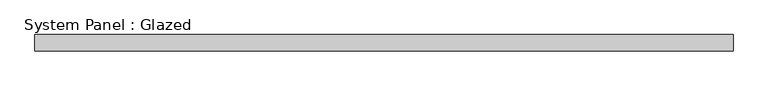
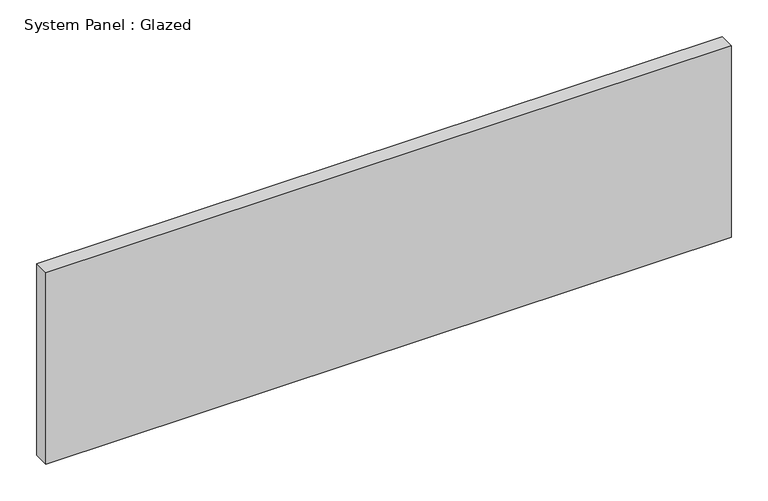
"""IFC4 building model written with IfcOpenShell, lengths in millimetres: plate geometry, System Panel : Glazed."""

import ifcopenshell
import ifcopenshell.guid

model = None  # the IFC model being written
_history = None  # IfcOwnerHistory: only IFC2X3 demands one
_inside = {}  # id of a spatial element -> (the spatial element, [elements in it])
_under = {}  # id of a project, library or spatial element -> (it, [spatial elements below it])
_declared = {}  # id of a project -> (the project, [libraries it declares])
_typed = {}  # id of a type object -> (the type object, [elements of that type])
_made_of = {}  # id of a material, layer set ... -> (it, [elements and type objects made of it])


def new_model(schema):
    """Start an empty IFC model of exactly this schema.

    Asked for "IFC4X3", IfcOpenShell would pick the latest addendum, in which some entities
    have other attributes; the version numbers below select the first issue.
    IFC2X3 requires an IfcOwnerHistory on every rooted entity: one is made here for all.
    """
    global model, _history
    if schema == "IFC4X3":
        model = ifcopenshell.file(schema_version=(4, 3, 0, 0))
    else:
        model = ifcopenshell.file(schema=schema)
    _inside.clear()
    _under.clear()
    _declared.clear()
    _typed.clear()
    _made_of.clear()
    _history = None
    if model.schema == "IFC2X3":
        org = make("IfcOrganization", Name="unknown")
        user = make(
            "IfcPersonAndOrganization",
            ThePerson=make("IfcPerson", FamilyName="unknown"),
            TheOrganization=org,
        )
        app = make(
            "IfcApplication",
            ApplicationDeveloper=org,
            Version="unknown",
            ApplicationFullName="unknown",
            ApplicationIdentifier="unknown",
        )
        _history = make(
            "IfcOwnerHistory",
            OwningUser=user,
            OwningApplication=app,
            ChangeAction="ADDED",
            CreationDate=0,
        )
    return model


def make(cls, **values):
    """One entity of the class cls with the attributes given. An attribute that is None is left unset."""
    return model.create_entity(
        cls, **{name: value for name, value in values.items() if value is not None}
    )


def rooted(cls, **values):
    """An entity with a GlobalId (a new one), such as an element, a storey or a relation."""
    return make(cls, GlobalId=ifcopenshell.guid.new(), OwnerHistory=_history, **values)


def si_unit(unit_type, name, prefix=None):
    """IfcSIUnit, for example si_unit("LENGTHUNIT", "METRE", prefix="MILLI")."""
    return make("IfcSIUnit", UnitType=unit_type, Prefix=prefix, Name=name)


def assignment(units):
    """IfcUnitAssignment: the units of a project."""
    return None if units is None else make("IfcUnitAssignment", Units=units)


def point(xyz):
    """IfcCartesianPoint."""
    return None if xyz is None else make("IfcCartesianPoint", Coordinates=xyz)


def direction(xyz):
    """IfcDirection."""
    return None if xyz is None else make("IfcDirection", DirectionRatios=xyz)


def frame(location, z_axis=None, x_axis=None):
    """IfcAxis2Placement3D, a coordinate frame: its origin and axes. An axis left out is left unset."""
    return make(
        "IfcAxis2Placement3D",
        Location=point(location),
        Axis=direction(z_axis),
        RefDirection=direction(x_axis),
    )


def origin():
    """The frame at (0, 0, 0) with its axes left unset."""
    return frame((0.0, 0.0, 0.0))


def origin_with_axes():
    """The frame at (0, 0, 0) with the z axis (0, 0, 1) and the x axis (1, 0, 0) written out."""
    return frame((0.0, 0.0, 0.0), z_axis=(0.0, 0.0, 1.0), x_axis=(1.0, 0.0, 0.0))


def place(relative_to, where):
    """IfcLocalPlacement: puts the frame where relative to a parent placement (None: the world)."""
    return make(
        "IfcLocalPlacement", PlacementRelTo=relative_to, RelativePlacement=where
    )


def context(
    kind, dimensions, precision=None, world=None, true_north=None, identifier=None
):
    """IfcGeometricRepresentationContext, for example the 3D "Model" context."""
    return make(
        "IfcGeometricRepresentationContext",
        ContextIdentifier=identifier,
        ContextType=kind,
        CoordinateSpaceDimension=dimensions,
        Precision=precision,
        WorldCoordinateSystem=world,
        TrueNorth=true_north,
    )


def project(units=None, contexts=None):
    """IfcProject with its units and contexts."""
    return rooted(
        "IfcProject",
        Name="project",
        RepresentationContexts=contexts,
        UnitsInContext=assignment(units),
    )


def spatial(cls, under=None, at=None, **own):
    """A site, building, storey or space (cls), placed at a placement, below another one or the project."""
    s = rooted(cls, ObjectPlacement=at, **own)
    if under is not None:
        _under.setdefault(under.id(), (under, []))[1].append(s)
    return s


def polyline(points):
    """IfcPolyline through the points."""
    return make("IfcPolyline", Points=[point(p) for p in points])


def outline(outer, holes=None, kind="AREA"):
    """IfcArbitraryClosedProfileDef: a profile drawn as a closed curve; with holes, ...WithVoids."""
    if holes is None:
        return make("IfcArbitraryClosedProfileDef", ProfileType=kind, OuterCurve=outer)
    return make(
        "IfcArbitraryProfileDefWithVoids",
        ProfileType=kind,
        OuterCurve=outer,
        InnerCurves=holes,
    )


def extrude(swept, where, along, depth):
    """IfcExtrudedAreaSolid: the profile swept, set in the frame where, extruded along a direction by depth."""
    return make(
        "IfcExtrudedAreaSolid",
        SweptArea=swept,
        Position=where,
        ExtrudedDirection=direction(along),
        Depth=depth,
    )


def shape(context_of_items, identifier, shape_type, items):
    """IfcShapeRepresentation: the items that make up one representation, for example the "Body"."""
    return make(
        "IfcShapeRepresentation",
        ContextOfItems=context_of_items,
        RepresentationIdentifier=identifier,
        RepresentationType=shape_type,
        Items=items,
    )


def source(mapping_origin, context_of_items, identifier, shape_type, items):
    """IfcRepresentationMap: a shape defined once, which mapped items show again and again."""
    return make(
        "IfcRepresentationMap",
        MappingOrigin=mapping_origin,
        MappedRepresentation=shape(context_of_items, identifier, shape_type, items),
    )


def transform(
    local_origin,
    x_axis=None,
    y_axis=None,
    z_axis=None,
    scale=None,
    scale2=None,
    scale3=None,
    uniform=True,
):
    """IfcCartesianTransformationOperator3D, or its non-uniform kind. x_axis, y_axis, z_axis: its Axis1, 2, 3."""
    if uniform:
        return make(
            "IfcCartesianTransformationOperator3D",
            Axis1=direction(x_axis),
            Axis2=direction(y_axis),
            LocalOrigin=point(local_origin),
            Scale=scale,
            Axis3=direction(z_axis),
        )
    return make(
        "IfcCartesianTransformationOperator3DnonUniform",
        Axis1=direction(x_axis),
        Axis2=direction(y_axis),
        LocalOrigin=point(local_origin),
        Scale=scale,
        Axis3=direction(z_axis),
        Scale2=scale2,
        Scale3=scale3,
    )


def mapped(mapping_source, mapping_target):
    """IfcMappedItem: shows the shape of a source again, moved by a transform."""
    return make(
        "IfcMappedItem", MappingSource=mapping_source, MappingTarget=mapping_target
    )


def made_of(thing, what):
    """Note that an element or type object is made of a material, layer set ...; save() writes the relation."""
    if what is not None:
        _made_of.setdefault(what.id(), (what, []))[1].append(thing)
    return thing


def element(
    cls,
    number,
    at=None,
    inside=None,
    cuts=None,
    type_object=None,
    material=None,
    context=None,
    identifier="Body",
    shape_type=None,
    held_by="IfcProductDefinitionShape",
    body=None,
    shapes=None,
    **own,
):
    """One element of the class cls, such as IfcWall. Its Tag is "e" and its number.

    at: its placement. inside: the storey or other place that contains it. cuts: it is an
    opening in that element (IfcRelVoidsElement). A single representation is given by context,
    identifier, shape_type and body (its items); several are given by shapes. held_by: the class
    of the entity that holds the representations. save() writes the other relations.
    """
    e = rooted(cls, Tag="e%d" % number, ObjectPlacement=at, **own)
    if body is not None:
        shapes = [shape(context, identifier, shape_type, body)]
    if shapes is not None:
        e.Representation = make(held_by, Representations=shapes)
    if inside is not None:
        _inside.setdefault(inside.id(), (inside, []))[1].append(e)
    if cuts is not None:
        rooted(
            "IfcRelVoidsElement", RelatingBuildingElement=cuts, RelatedOpeningElement=e
        )
    if type_object is not None:
        _typed.setdefault(type_object.id(), (type_object, []))[1].append(e)
    return made_of(e, material)


def aggregate(whole, parts):
    """IfcRelAggregates: a whole, such as a stair, and the parts it consists of."""
    return rooted("IfcRelAggregates", RelatingObject=whole, RelatedObjects=parts)


def save(model, path):
    """Write the relations noted so far, then the file.

    IfcRelAggregates (storeys below a building ...), IfcRelContainedInSpatialStructure (elements
    in a storey), IfcRelDefinesByType, IfcRelAssociatesMaterial and IfcRelDeclares: one each for
    every whole, place, type object, material and project.
    """
    for whole, parts in _under.values():
        aggregate(whole, parts)
    for where, things in _inside.values():
        rooted(
            "IfcRelContainedInSpatialStructure",
            RelatedElements=things,
            RelatingStructure=where,
        )
    for kind, things in _typed.values():
        rooted("IfcRelDefinesByType", RelatedObjects=things, RelatingType=kind)
    for what, things in _made_of.values():
        rooted("IfcRelAssociatesMaterial", RelatedObjects=things, RelatingMaterial=what)
    for by, libraries in _declared.values():
        rooted("IfcRelDeclares", RelatingContext=by, RelatedDefinitions=libraries)
    model.write(path)


def system_panel_glazed_5c61df2e(model_context):
    return source(origin(), model_context, "Body", "SweptSolid", [
        extrude(outline(polyline([(541.655, -44.45), (-541.655, -44.45), (-541.655, -19.05), (541.655, -19.05), (541.655, -44.45)])), origin_with_axes(), (0.0, 0.0, 1.0), 319.8283668),
    ])


if __name__ == "__main__":
    model = new_model("IFC4")
    model_context = context("Model", 3, world=origin())
    ifc_project = project(units=[si_unit("LENGTHUNIT", "METRE", prefix="MILLI")], contexts=[model_context])
    site = spatial("IfcSite", under=ifc_project)
    building = spatial("IfcBuilding", under=site)
    placement = place(None, origin())
    system_panel_glazed_shape = system_panel_glazed_5c61df2e(model_context)
    element("IfcPlate", 1, ObjectType="System Panel : Glazed", at=placement, inside=building, context=model_context, shape_type="MappedRepresentation", body=[
        mapped(system_panel_glazed_shape, transform((0.0, 0.0, 0.0), x_axis=(1.0, 0.0, 0.0), y_axis=(0.0, 1.0, 0.0), z_axis=(0.0, 0.0, 1.0))),
    ])
    save(model, "model.ifc")
